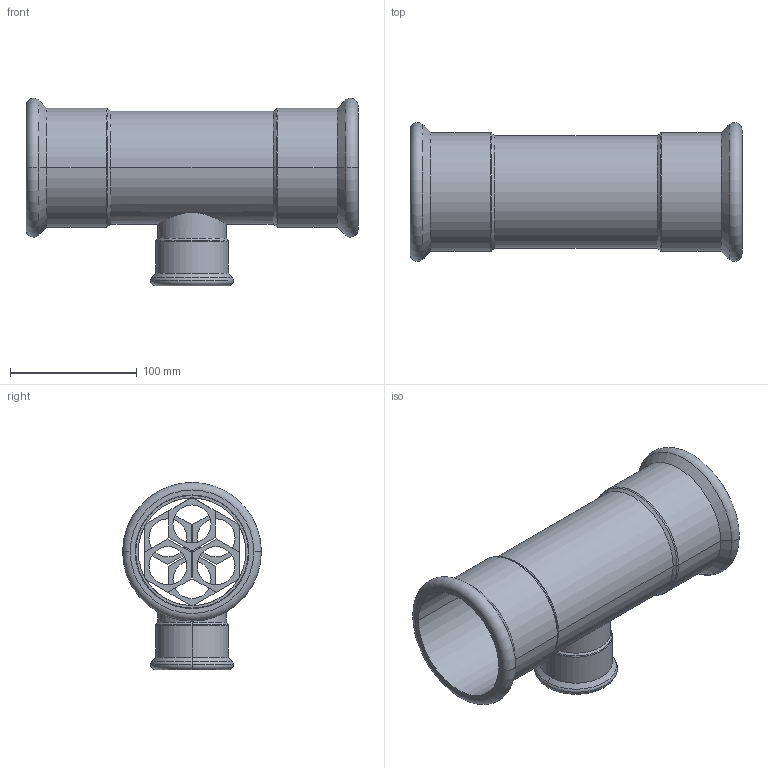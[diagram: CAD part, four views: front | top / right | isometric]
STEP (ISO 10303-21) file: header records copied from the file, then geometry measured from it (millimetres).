
FILE_DESCRIPTION(('OneSpaceDesigner STEP Export'),'2;1');
FILE_NAME('R2715 89x54x89.stp','2010-06-10T 9:35:03',(''),(''),'OneSpace Designer STEP processor for AP214 (Solid Model)','OneSpace Modeling 15.00A 14-Mar-2007 (C) CoCreate Software GmbH','');
FILE_SCHEMA(('AUTOMOTIVE_DESIGN { 1 0 10303 214 1 1 1 1 }'));
Length unit declared in the file: millimetre
Products named in the file (2): R2715_89x54x89
Assembly tree (1 placements, depth 2):
  R2715_89x54x89
    R2715_89x54x89
Bounding box: 262 x 109.48 x 147.74 mm (x, y, z)
Volume: 237399.7 mm3; surface area: 188698.5 mm2
Topology: 1 solids, 1 shells, 170 faces, 424 edges, 273 vertices
Faces by surface type: plane 90, cylinder 54, torus 14, cone 12
Entity records: 5749 total; most frequent: CARTESIAN_POINT 2020, ORIENTED_EDGE 848, DIRECTION 643, EDGE_CURVE 424, VERTEX_POINT 273, VECTOR 263, LINE 263, EDGE_LOOP 207
